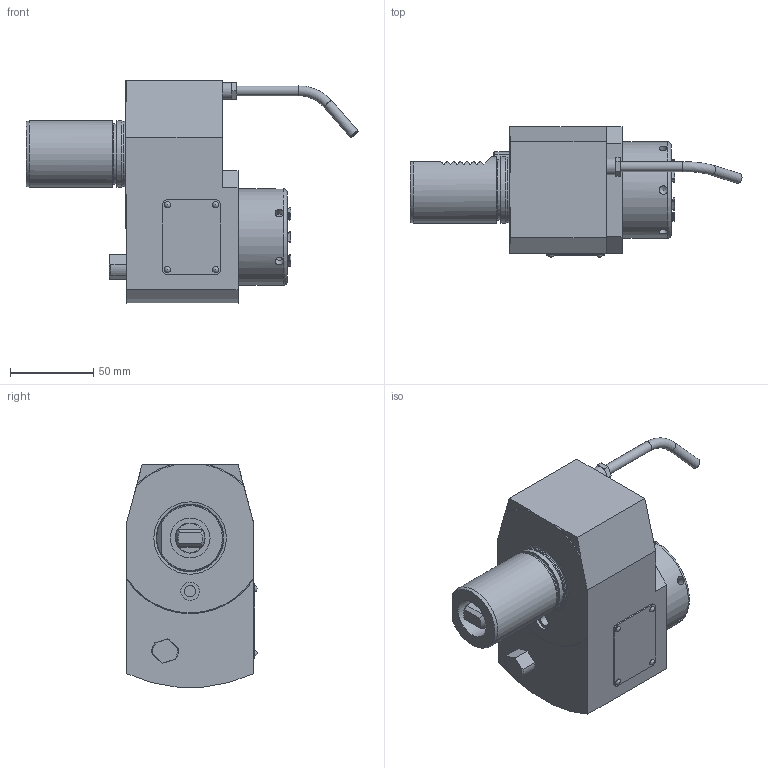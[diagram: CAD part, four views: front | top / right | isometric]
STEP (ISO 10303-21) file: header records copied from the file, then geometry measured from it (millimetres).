
FILE_DESCRIPTION(/* description */ (''),/* implementation_level */ '2;1');
FILE_NAME(/* name */ '192490',/* time_stamp */ '2018-09-13T09:59:03+02:00',/* author */ (''),/* organization */ (''),/* preprocessor_version */ 'ST-DEVELOPER v16.5',/* originating_system */ 'HiCAD 2017 2201.0 Build 268',/* authorisation */ '');
FILE_SCHEMA (('AUTOMOTIVE_DESIGN { 1 0 10303 214 1 1 1 1 }'));
Length unit declared in the file: millimetre
Products named in the file (13): Root; Leeres Teil; 112485_Überwurfschraube_351*; TORUS_1_353*; 00011481_370*; 113692_Kerbnagel 2x4_380*; 112977_Spannmutter ER32 HI_QERAX_350*; 003_000X; ROTATIONSTEIL_0_104; ROTATIONSTEIL_1_102*
Assembly tree (12 placements, depth 4):
  Root
    Leeres Teil
      112485_Überwurfschraube_351*
      TORUS_1_353*
      00011481_370*
      113692_Kerbnagel 2x4_380*
      113692_Kerbnagel 2x4_380*
      113692_Kerbnagel 2x4_380*
      113692_Kerbnagel 2x4_380*
      112977_Spannmutter ER32 HI_QERAX_350*
        003_000X
      ROTATIONSTEIL_0_104
      ROTATIONSTEIL_1_102*
Bounding box: 199.67 x 78.3 x 133.66 mm (x, y, z)
Volume: 751335 mm3; surface area: 88652.9 mm2
Topology: 11 solids, 14 shells, 359 faces, 921 edges, 601 vertices
Faces by surface type: plane 175, cylinder 127, cone 32, torus 21, sphere 4
Full cylindrical faces by diameter (mm): 2 x4, 2.2 x4, 4 x2, 5.1 x6, 6 x3, 6.8 x1, 9 x1, 10 x1, 11.1 x1, 14 x1, 18 x1, 20 x1, 23.5 x1, 24 x1, 27 x1, 29 x1, 36.5 x1, 38.5 x1, 39.4 x1, 40 x3, 40.5 x1, 50 x1, 58 x1
Entity records: 16724 total; most frequent: CARTESIAN_POINT 8426, DIRECTION 1768, ORIENTED_EDGE 1618, EDGE_CURVE 809, AXIS2_PLACEMENT_3D 720, VERTEX_POINT 571, FACE_BOUND 472, EDGE_LOOP 465
